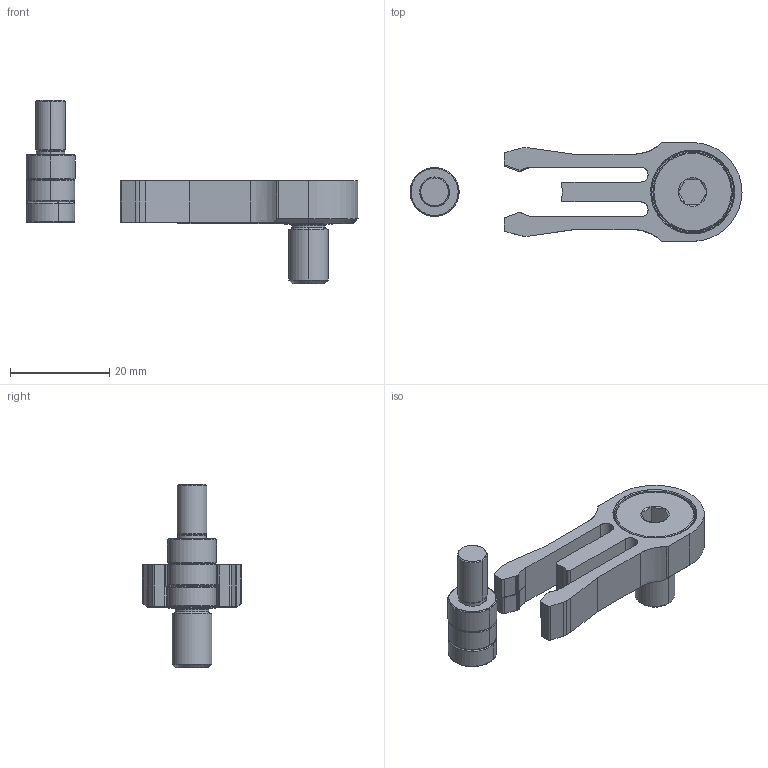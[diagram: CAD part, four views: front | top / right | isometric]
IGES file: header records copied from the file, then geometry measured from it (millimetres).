
Start section: START RECORD GO HERE.
Global section: file name: rcm204810.igs; native system: DASSAULT SYSTEMES CATIA V5 R20 - www.3ds.com; preprocessor: CATIA Version 5 Release 20 ; author: Utente; organization: NB04-ASUS; date: 20201103.214834; units: millimetre
Bounding box: 66.9 x 19.9 x 36.97 mm (x, y, z)
Surface area: 5604.1 mm2 (no closed solid volume)
Topology: 0 solids, 0 shells, 228 faces, 1070 edges, 1070 vertices
Faces by surface type: revolution 138, plane 90
